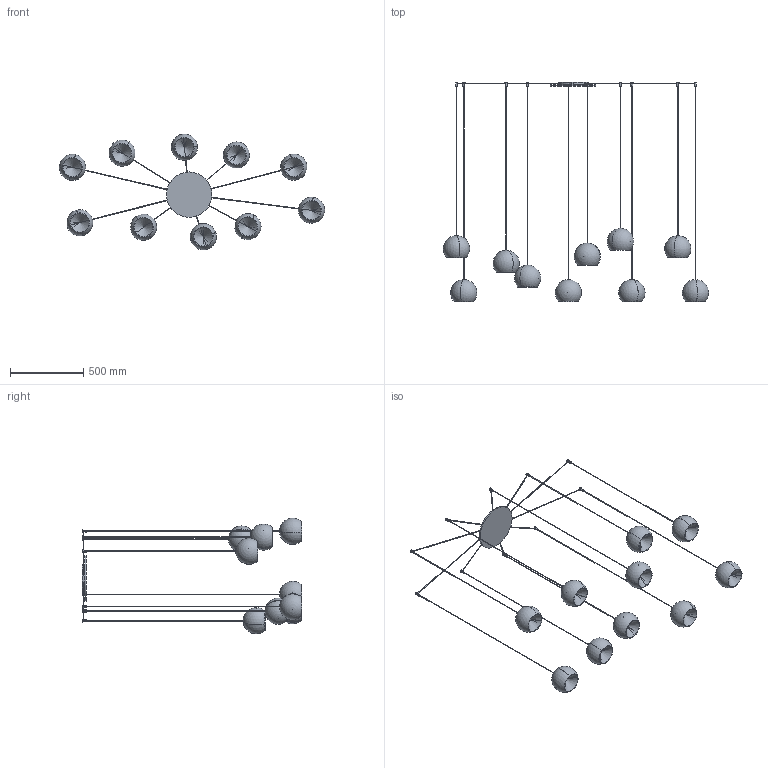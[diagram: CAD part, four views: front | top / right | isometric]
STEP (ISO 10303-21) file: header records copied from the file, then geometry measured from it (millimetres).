
FILE_DESCRIPTION (( 'STEP AP203' ), '1' );
FILE_NAME ('CHRA7-00-CHERRY_10 sospensione.STEP', '2025-05-20T13:38:33', ( '' ), ( '' ), 'SwSTEP 2.0', 'SolidWorks 2022', '' );
FILE_SCHEMA (( 'CONFIG_CONTROL_DESIGN' ));
Length unit declared in the file: millimetre
Products named in the file (8): CHERRY_Lampada singola_Cherry 180 | H=1800; CHERRY_Lampada singola_Cherry 180 | H=1600; CHRA7-00-CHERRY_10 sospensione; CHERRY_Lampada singola_Cherry 180 | H=1500; CHERRY_Rosone_Cherry 10 (x 3000)<A macchina>; CHERRY_Lampada singola_Cherry 180 | H=1700; CHERRY_Lampada singola_Cherry 180 | H=1750; CHERRY_Lampada singola_Cherry 180 | H=1850
Assembly tree (11 placements, depth 2):
  CHRA7-00-CHERRY_10 sospensione
    CHERRY_Rosone_Cherry 10 (x 3000)<A macchina>
    CHERRY_Lampada singola_Cherry 180 | H=1800  x2
    CHERRY_Lampada singola_Cherry 180 | H=1700
    CHERRY_Lampada singola_Cherry 180 | H=1500  x4
    CHERRY_Lampada singola_Cherry 180 | H=1850
    CHERRY_Lampada singola_Cherry 180 | H=1750
    CHERRY_Lampada singola_Cherry 180 | H=1600
Bounding box: 1814.88 x 1500 x 791.06 mm (x, y, z)
Volume: 3313168.9 mm3; surface area: 2492800.6 mm2
Topology: 51 solids, 51 shells, 375 faces, 892 edges, 560 vertices
Faces by surface type: cylinder 172, plane 123, sphere 40, cone 40
Entity records: 7736 total; most frequent: CARTESIAN_POINT 1625, DIRECTION 1190, ORIENTED_EDGE 976, AXIS2_PLACEMENT_3D 529, EDGE_CURVE 488, VERTEX_POINT 324, EDGE_LOOP 272, CIRCLE 268
